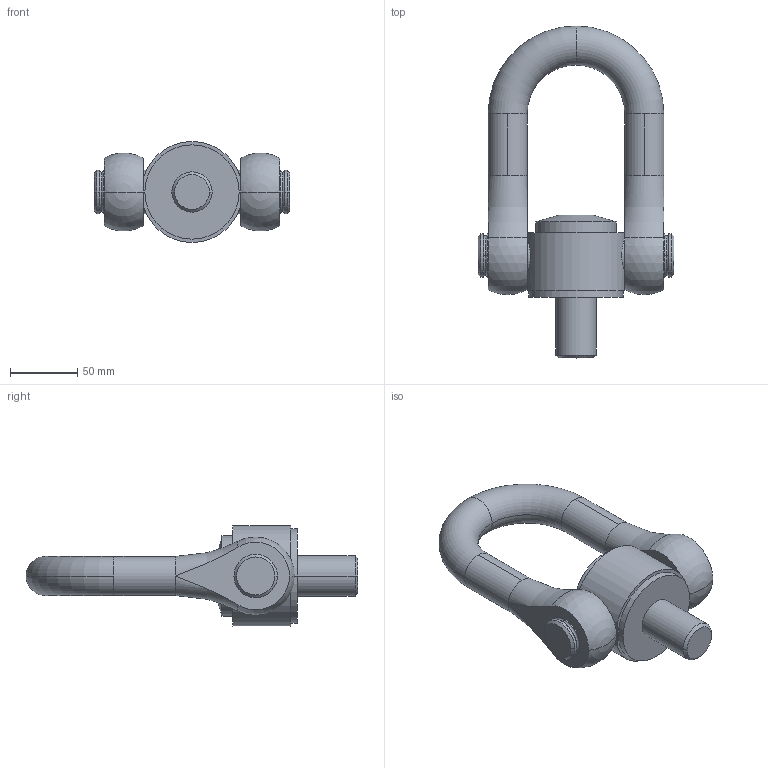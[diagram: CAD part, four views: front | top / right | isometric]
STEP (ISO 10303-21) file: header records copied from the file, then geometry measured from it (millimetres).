
FILE_DESCRIPTION( ( '' ), '1' );
FILE_NAME( 'c:/Temp/codipro/codipro_ss.dss_m30_90', '2011-05-12T08:15:19', ( '' ), ( '' ), ' ', ' ', ' ' );
FILE_SCHEMA( ( 'automotive_design' ) );
Length unit declared in the file: millimetre
Products named in the file (2): 1; 2
Bounding box: 145.5 x 246.5 x 74.72 mm (x, y, z)
Volume: 639750.1 mm3; surface area: 83348.4 mm2
Topology: 2 solids, 2 shells, 74 faces, 186 edges, 116 vertices
Faces by surface type: cylinder 24, plane 22, torus 16, cone 8, sphere 4
Entity records: 4545 total; most frequent: CARTESIAN_POINT 578, DIRECTION 432, STYLED_ITEM 374, PRESENTATION_STYLE_ASSIGNMENT 374, COLOUR_RGB 374, ORIENTED_EDGE 364, AXIS2_PLACEMENT_3D 186, EDGE_CURVE 182
